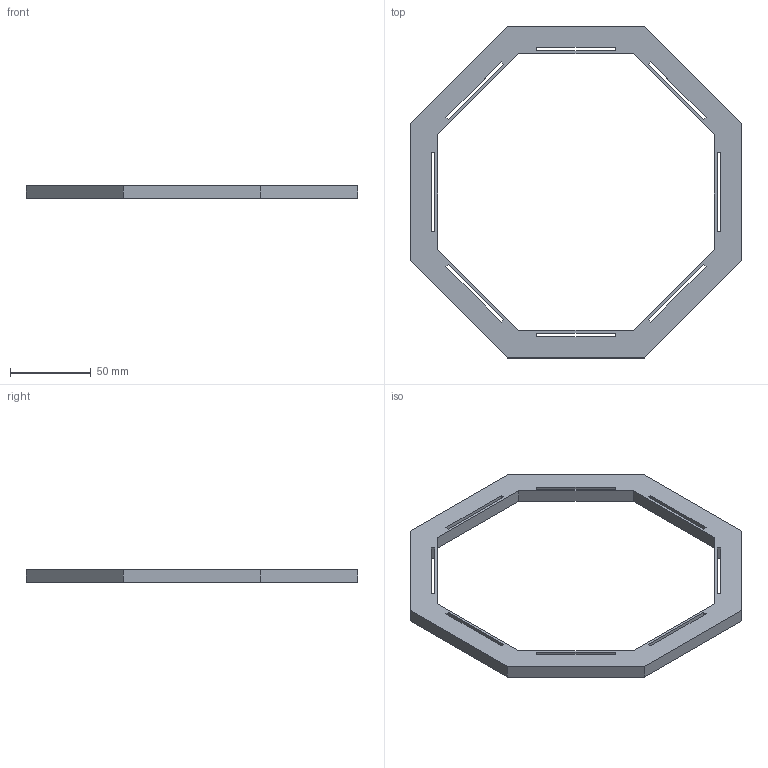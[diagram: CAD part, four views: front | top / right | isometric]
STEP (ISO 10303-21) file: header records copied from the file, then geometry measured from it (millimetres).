
FILE_DESCRIPTION(('Open CASCADE Model'),'2;1');
FILE_NAME('Open CASCADE Shape Model','2026-10-05T11:00:30',('Author'),( 'Open CASCADE'),'Open CASCADE STEP processor 7.9','Open CASCADE 7.9' ,'Unknown');
FILE_SCHEMA(('AUTOMOTIVE_DESIGN { 1 0 10303 214 1 1 1 1 }'));
Length unit declared in the file: millimetre
Products named in the file (1): Open CASCADE STEP translator 7.9 5
Bounding box: 205 x 205 x 8 mm (x, y, z)
Volume: 77882 mm3; surface area: 35940.5 mm2
Topology: 1 solids, 1 shells, 50 faces, 144 edges, 96 vertices
Faces by surface type: plane 50
Entity records: 3366 total; most frequent: CARTESIAN_POINT 739, DIRECTION 374, ORIENTED_EDGE 288, PCURVE 288, DEFINITIONAL_REPRESENTATION 288, LINE 272, VECTOR 272, B_SPLINE_CURVE_WITH_KNOTS 160
